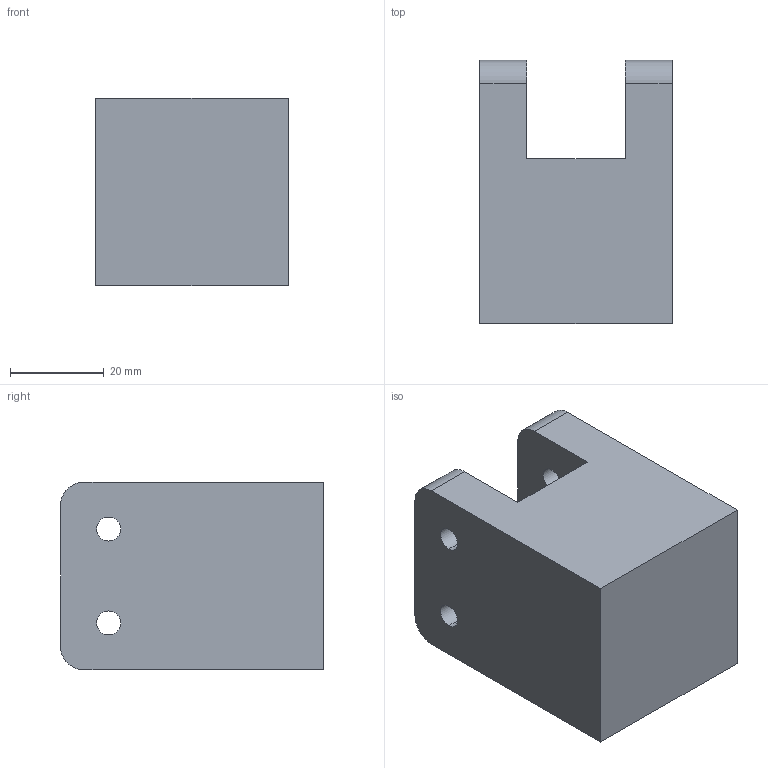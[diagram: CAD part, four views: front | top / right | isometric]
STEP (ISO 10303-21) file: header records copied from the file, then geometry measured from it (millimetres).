
FILE_DESCRIPTION (( 'STEP AP203' ), '1' );
FILE_NAME ('StandIdler.step', '2026-08-22T11:38:56', ( '' ), ( '' ), 'SwSTEP 2.0', 'SolidWorks 2026', '' );
FILE_SCHEMA (( 'CONFIG_CONTROL_DESIGN' ));
Length unit declared in the file: millimetre
Products named in the file (1): StandIdler
Bounding box: 41 x 56 x 40 mm (x, y, z)
Volume: 62780.9 mm3; surface area: 14442.9 mm2
Topology: 1 solids, 1 shells, 25 faces, 69 edges, 46 vertices
Faces by surface type: cylinder 13, plane 12
Entity records: 902 total; most frequent: DIRECTION 147, CARTESIAN_POINT 141, ORIENTED_EDGE 138, EDGE_CURVE 69, AXIS2_PLACEMENT_3D 52, VERTEX_POINT 46, LINE 43, VECTOR 43
